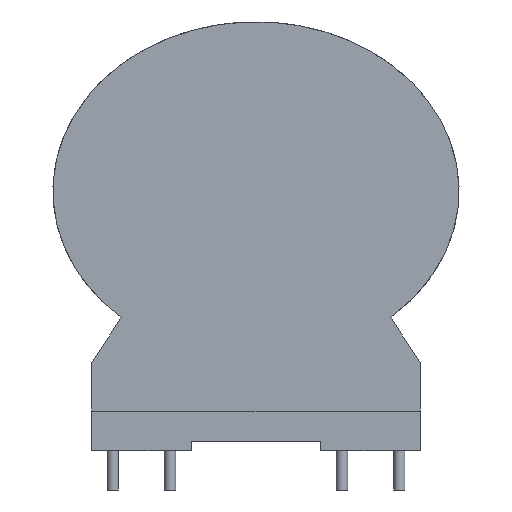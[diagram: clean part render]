
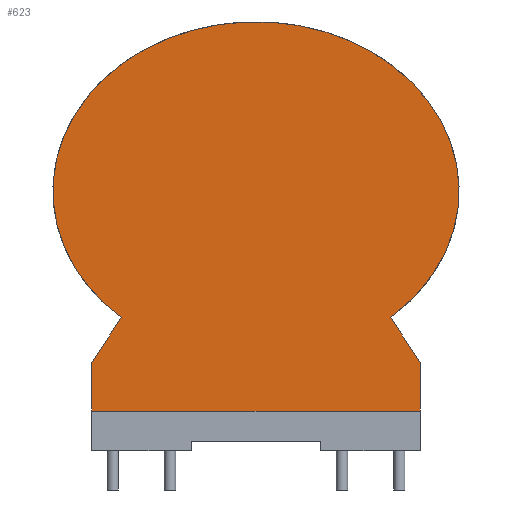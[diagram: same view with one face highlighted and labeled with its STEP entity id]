
A CAD part, front view. The second image highlights one B-rep face of the part: STEP entity #623.
In plain terms, the highlighted planar face has unit normal (0, -1, 0).
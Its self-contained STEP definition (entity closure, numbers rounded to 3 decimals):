
#57=ELLIPSE('',#673,18.,15.);
#62=FACE_OUTER_BOUND('',#102,.T.);
#102=EDGE_LOOP('',(#446,#447,#448,#449,#450,#451));
#171=LINE('',#945,#235);
#173=LINE('',#949,#237);
#174=LINE('',#951,#238);
#175=LINE('',#955,#239);
#176=LINE('',#956,#240);
#235=VECTOR('',#753,10.);
#237=VECTOR('',#757,10.);
#238=VECTOR('',#758,10.);
#239=VECTOR('',#761,10.);
#240=VECTOR('',#762,10.);
#298=VERTEX_POINT('',#942);
#299=VERTEX_POINT('',#944);
#300=VERTEX_POINT('',#948);
#301=VERTEX_POINT('',#950);
#302=VERTEX_POINT('',#952);
#303=VERTEX_POINT('',#954);
#360=EDGE_CURVE('',#299,#298,#171,.T.);
#362=EDGE_CURVE('',#298,#300,#173,.T.);
#363=EDGE_CURVE('',#300,#301,#174,.T.);
#364=EDGE_CURVE('',#301,#302,#57,.T.);
#365=EDGE_CURVE('',#302,#303,#175,.T.);
#366=EDGE_CURVE('',#303,#299,#176,.T.);
#446=ORIENTED_EDGE('',*,*,#360,.T.);
#447=ORIENTED_EDGE('',*,*,#362,.T.);
#448=ORIENTED_EDGE('',*,*,#363,.T.);
#449=ORIENTED_EDGE('',*,*,#364,.T.);
#450=ORIENTED_EDGE('',*,*,#365,.T.);
#451=ORIENTED_EDGE('',*,*,#366,.T.);
#592=PLANE('',#672);
#623=ADVANCED_FACE('',(#62),#592,.T.);
#672=AXIS2_PLACEMENT_3D('',#947,#755,#756);
#673=AXIS2_PLACEMENT_3D('',#953,#759,#760);
#753=DIRECTION('',(1.,0.,0.));
#755=DIRECTION('center_axis',(0.,-1.,0.));
#756=DIRECTION('ref_axis',(0.,0.,-1.));
#757=DIRECTION('',(0.,0.,1.));
#758=DIRECTION('',(-0.549,0.,0.836));
#759=DIRECTION('center_axis',(0.,-1.,0.));
#760=DIRECTION('ref_axis',(1.,0.,0.));
#761=DIRECTION('',(-0.549,0.,-0.836));
#762=DIRECTION('',(0.,0.,-1.));
#942=CARTESIAN_POINT('',(14.55,-10.5,2.7));
#944=CARTESIAN_POINT('',(-14.55,-10.5,2.7));
#945=CARTESIAN_POINT('',(-14.55,-10.5,2.7));
#947=CARTESIAN_POINT('Origin',(0.,-10.5,16.731));
#948=CARTESIAN_POINT('',(14.55,-10.5,7.));
#949=CARTESIAN_POINT('',(14.55,-10.5,-0.8));
#950=CARTESIAN_POINT('',(11.938,-10.5,10.974));
#951=CARTESIAN_POINT('',(14.55,-10.5,7.));
#952=CARTESIAN_POINT('',(-11.938,-10.5,10.974));
#953=CARTESIAN_POINT('Origin',(0.,-10.5,22.2));
#954=CARTESIAN_POINT('',(-14.55,-10.5,7.));
#955=CARTESIAN_POINT('',(-11.938,-10.5,10.974));
#956=CARTESIAN_POINT('',(-14.55,-10.5,7.));
